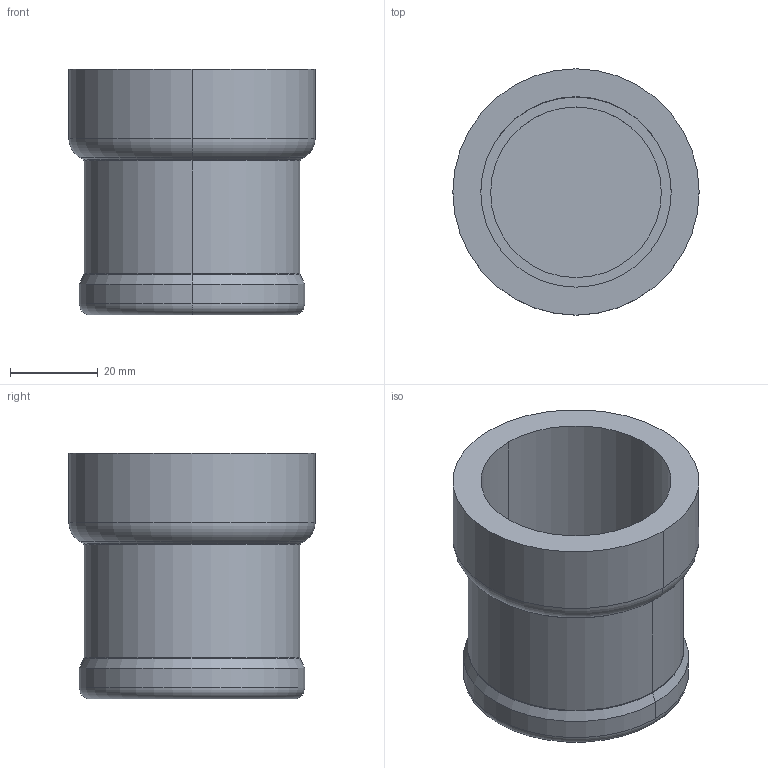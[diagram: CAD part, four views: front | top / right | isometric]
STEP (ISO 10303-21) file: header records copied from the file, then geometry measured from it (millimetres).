
FILE_DESCRIPTION(('Creo Elements/Direct Modeling STEP Export'),'2;1');
FILE_NAME('C9429_1-1-4.stp','2020-07-17T12:01:28',(''),(''),'PTC Creo Elements/Direct Modeling STEP processor for AP214 (Solid Model)','PTC Creo Elements/Direct Modeling 19.0C 15-Aug-2015 (C) Parametric Technology GmbH','');
FILE_SCHEMA(('AUTOMOTIVE_DESIGN { 1 0 10303 214 1 1 1 1 }'));
Length unit declared in the file: millimetre
Products named in the file (2): C9429_1-1-4
Assembly tree (1 placements, depth 2):
  C9429_1-1-4
    C9429_1-1-4
Bounding box: 56 x 56 x 55.9 mm (x, y, z)
Volume: 41142.7 mm3; surface area: 20844.5 mm2
Topology: 1 solids, 1 shells, 26 faces, 54 edges, 32 vertices
Faces by surface type: cylinder 10, torus 8, plane 4, cone 4
Entity records: 657 total; most frequent: DIRECTION 114, ORIENTED_EDGE 108, CARTESIAN_POINT 96, EDGE_CURVE 54, AXIS2_PLACEMENT_3D 50, VERTEX_POINT 32, EDGE_LOOP 28, FACE_OUTER_BOUND 26
